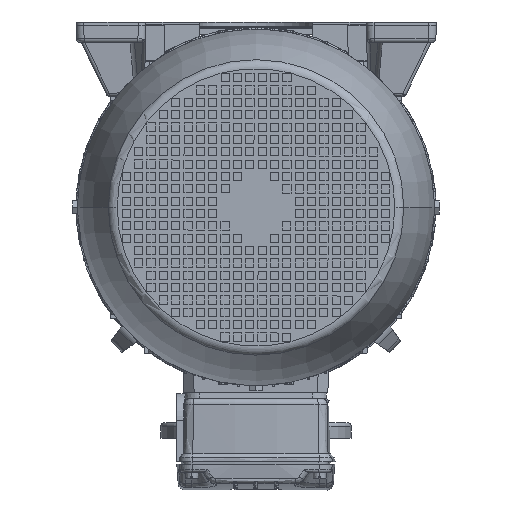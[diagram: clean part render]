
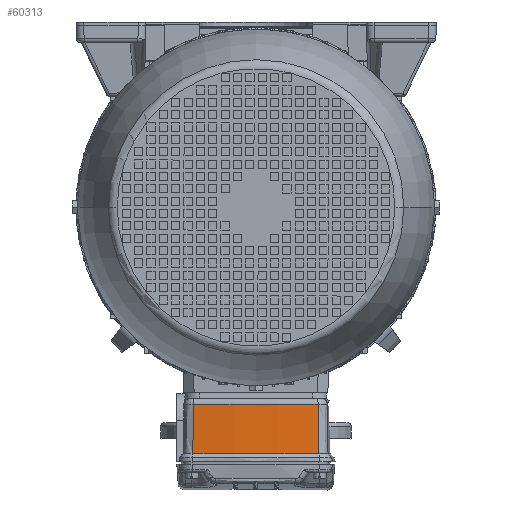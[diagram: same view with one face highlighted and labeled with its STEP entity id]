
A CAD part, front view. The second image highlights one B-rep face of the part: STEP entity #60313.
In plain terms, the highlighted conical face has half-angle 1 degrees and reference radius 596 mm.
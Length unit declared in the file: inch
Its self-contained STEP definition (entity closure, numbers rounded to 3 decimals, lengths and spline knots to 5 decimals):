
#1821 = EDGE_CURVE ( 'NONE', #39256, #65329, #57430, .T. ) ;
#6706 = B_SPLINE_CURVE_WITH_KNOTS ( 'NONE', 3,
 ( #7851, #23652, #124359, #186551, #144083, #170768, #142119 ),
 .UNSPECIFIED., .F., .F.,
 ( 4, 3, 4 ),
 ( 0.0059, 0.03088, 0.0538 ),
 .UNSPECIFIED. ) ;
#7851 = CARTESIAN_POINT ( 'NONE',  ( -2.37976, 7.53525, 0.04733 ) ) ;
#8587 = EDGE_CURVE ( 'NONE', #192457, #65329, #6706, .T. ) ;
#23652 = CARTESIAN_POINT ( 'NONE',  ( -2.3852, 7.86299, 0.04213 ) ) ;
#24114 = EDGE_CURVE ( 'NONE', #39256, #153072, #110717, .T. ) ;
#25003 = FACE_OUTER_BOUND ( 'NONE', #170148, .T. ) ;
#39256 = VERTEX_POINT ( 'NONE', #66679 ) ;
#42237 = CARTESIAN_POINT ( 'NONE',  ( 2.41105, 9.4207, 0.01746 ) ) ;
#57430 = CIRCLE ( 'NONE', #167769, 23.45927 ) ;
#57681 = ORIENTED_EDGE ( 'NONE', *, *, #79512, .T. ) ;
#60313 = ADVANCED_FACE ( 'NONE', ( #25003 ), #78672, .T. ) ;
#65329 = VERTEX_POINT ( 'NONE', #189666 ) ;
#66679 = CARTESIAN_POINT ( 'NONE',  ( 2.41105, 9.4207, 0.01746 ) ) ;
#76258 = CARTESIAN_POINT ( 'NONE',  ( 0., 7.53525, 23.3525 ) ) ;
#78672 = CONICAL_SURFACE ( 'NONE', #94438, 23.46457, 0.017 ) ;
#79512 = EDGE_CURVE ( 'NONE', #153072, #192457, #192107, .T. ) ;
#80857 = ORIENTED_EDGE ( 'NONE', *, *, #8587, .T. ) ;
#92874 = CARTESIAN_POINT ( 'NONE',  ( -2.37976, 7.53525, 0.04733 ) ) ;
#94438 = AXIS2_PLACEMENT_3D ( 'NONE', #146391, #158318, #145434 ) ;
#101493 = CARTESIAN_POINT ( 'NONE',  ( 2.40606, 9.11995, 0.02222 ) ) ;
#102460 = CARTESIAN_POINT ( 'NONE',  ( 2.39608, 8.51846, 0.03175 ) ) ;
#108723 = CARTESIAN_POINT ( 'NONE',  ( 0., 9.4207, 23.3525 ) ) ;
#110717 = B_SPLINE_CURVE_WITH_KNOTS ( 'NONE', 3,
 ( #42237, #101493, #129177, #102460, #159778, #189418, #128189 ),
 .UNSPECIFIED., .F., .F.,
 ( 4, 3, 4 ),
 ( 0.00772, 0.03064, 0.05562 ),
 .UNSPECIFIED. ) ;
#119674 = AXIS2_PLACEMENT_3D ( 'NONE', #76258, #135525, #193793 ) ;
#124359 = CARTESIAN_POINT ( 'NONE',  ( -2.39064, 8.19072, 0.03694 ) ) ;
#127431 = DIRECTION ( 'NONE',  ( 0., 0., 1. ) ) ;
#128189 = CARTESIAN_POINT ( 'NONE',  ( 2.37976, 7.53525, 0.04733 ) ) ;
#129177 = CARTESIAN_POINT ( 'NONE',  ( 2.40107, 8.81921, 0.02698 ) ) ;
#135525 = DIRECTION ( 'NONE',  ( 0., 1., 0. ) ) ;
#136017 = ORIENTED_EDGE ( 'NONE', *, *, #1821, .F. ) ;
#142119 = CARTESIAN_POINT ( 'NONE',  ( -2.41105, 9.4207, 0.01746 ) ) ;
#144083 = CARTESIAN_POINT ( 'NONE',  ( -2.40107, 8.81921, 0.02698 ) ) ;
#145434 = DIRECTION ( 'NONE',  ( 0., 0., 1. ) ) ;
#146391 = CARTESIAN_POINT ( 'NONE',  ( 0., 9.72441, 23.3525 ) ) ;
#153072 = VERTEX_POINT ( 'NONE', #182625 ) ;
#158318 = DIRECTION ( 'NONE',  ( 0., 1., 0. ) ) ;
#159778 = CARTESIAN_POINT ( 'NONE',  ( 2.39064, 8.19072, 0.03694 ) ) ;
#161168 = ORIENTED_EDGE ( 'NONE', *, *, #24114, .T. ) ;
#167769 = AXIS2_PLACEMENT_3D ( 'NONE', #108723, #168966, #127431 ) ;
#168966 = DIRECTION ( 'NONE',  ( 0., 1., 0. ) ) ;
#170148 = EDGE_LOOP ( 'NONE', ( #161168, #57681, #80857, #136017 ) ) ;
#170768 = CARTESIAN_POINT ( 'NONE',  ( -2.40606, 9.11995, 0.02222 ) ) ;
#182625 = CARTESIAN_POINT ( 'NONE',  ( 2.37976, 7.53525, 0.04733 ) ) ;
#186551 = CARTESIAN_POINT ( 'NONE',  ( -2.39608, 8.51846, 0.03175 ) ) ;
#189418 = CARTESIAN_POINT ( 'NONE',  ( 2.3852, 7.86299, 0.04213 ) ) ;
#189666 = CARTESIAN_POINT ( 'NONE',  ( -2.41105, 9.4207, 0.01746 ) ) ;
#192107 = CIRCLE ( 'NONE', #119674, 23.42635 ) ;
#192457 = VERTEX_POINT ( 'NONE', #92874 ) ;
#193793 = DIRECTION ( 'NONE',  ( 0., 0., 1. ) ) ;
